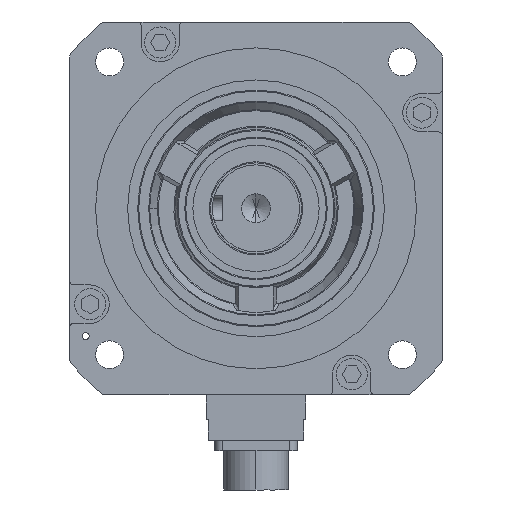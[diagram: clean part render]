
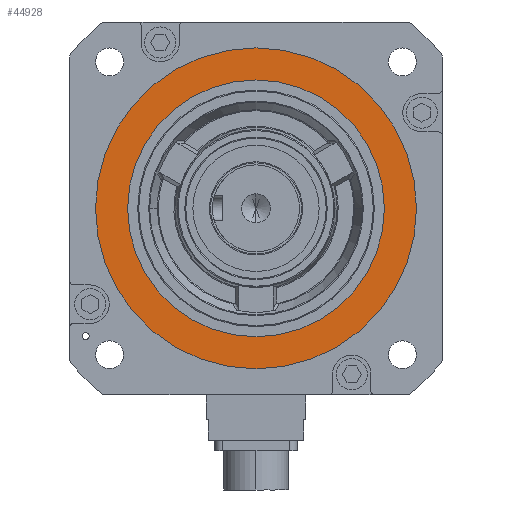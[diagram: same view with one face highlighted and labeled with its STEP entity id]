
A CAD part, left-side view. The second image highlights one B-rep face of the part: STEP entity #44928.
In plain terms, the highlighted planar face has unit normal (-1, 0, 0) as drawn and (0, 0, -1) by its records, which use the part's own axes.
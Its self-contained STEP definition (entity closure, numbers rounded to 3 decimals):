
#4986 = VERTEX_POINT ( 'NONE', #51182 ) ;
#5080 = AXIS2_PLACEMENT_3D ( 'NONE', #28611, #5470, #51953 ) ;
#5252 = AXIS2_PLACEMENT_3D ( 'NONE', #17971, #41535, #60465 ) ;
#5470 = DIRECTION ( 'NONE',  ( 0., 0., -1. ) ) ;
#5799 = VERTEX_POINT ( 'NONE', #10965 ) ;
#7637 = ORIENTED_EDGE ( 'NONE', *, *, #54354, .F. ) ;
#7773 = DIRECTION ( 'NONE',  ( 0., 0., 1. ) ) ;
#8296 = DIRECTION ( 'NONE',  ( 0., 0., 1. ) ) ;
#10590 = CARTESIAN_POINT ( 'NONE',  ( -77.5, 0., 3.8 ) ) ;
#10965 = CARTESIAN_POINT ( 'NONE',  ( -62., 0., 3.8 ) ) ;
#11901 = CARTESIAN_POINT ( 'NONE',  ( 0., 0., 3.8 ) ) ;
#11974 = CIRCLE ( 'NONE', #5252, 77.5 ) ;
#12442 = AXIS2_PLACEMENT_3D ( 'NONE', #11901, #7773, #53931 ) ;
#13246 = CIRCLE ( 'NONE', #35335, 77.5 ) ;
#17971 = CARTESIAN_POINT ( 'NONE',  ( 0., 0., 3.8 ) ) ;
#18856 = CIRCLE ( 'NONE', #12442, 62. ) ;
#19576 = DIRECTION ( 'NONE',  ( 1., 0., 0. ) ) ;
#21923 = EDGE_CURVE ( 'NONE', #54036, #4986, #11974, .T. ) ;
#26617 = EDGE_CURVE ( 'NONE', #60344, #5799, #31141, .T. ) ;
#26988 = ORIENTED_EDGE ( 'NONE', *, *, #21923, .F. ) ;
#28611 = CARTESIAN_POINT ( 'NONE',  ( 0., 62., 3.8 ) ) ;
#31141 = CIRCLE ( 'NONE', #55811, 62. ) ;
#31331 = ORIENTED_EDGE ( 'NONE', *, *, #34526, .T. ) ;
#34526 = EDGE_CURVE ( 'NONE', #5799, #60344, #18856, .T. ) ;
#35335 = AXIS2_PLACEMENT_3D ( 'NONE', #55254, #8296, #36603 ) ;
#36603 = DIRECTION ( 'NONE',  ( 1., 0., 0. ) ) ;
#39064 = DIRECTION ( 'NONE',  ( 0., 0., 1. ) ) ;
#41535 = DIRECTION ( 'NONE',  ( 0., 0., 1. ) ) ;
#43720 = CARTESIAN_POINT ( 'NONE',  ( 0., 0., 3.8 ) ) ;
#44657 = EDGE_LOOP ( 'NONE', ( #7637, #26988 ) ) ;
#44928 = ADVANCED_FACE ( 'NONE', ( #57552, #45002 ), #47464, .T. ) ;
#45002 = FACE_OUTER_BOUND ( 'NONE', #44657, .T. ) ;
#47464 = PLANE ( 'NONE',  #5080 ) ;
#48973 = CARTESIAN_POINT ( 'NONE',  ( 62., 0., 3.8 ) ) ;
#51182 = CARTESIAN_POINT ( 'NONE',  ( 77.5, 0., 3.8 ) ) ;
#51559 = EDGE_LOOP ( 'NONE', ( #52965, #31331 ) ) ;
#51953 = DIRECTION ( 'NONE',  ( -1., 0., 0. ) ) ;
#52965 = ORIENTED_EDGE ( 'NONE', *, *, #26617, .T. ) ;
#53931 = DIRECTION ( 'NONE',  ( 1., 0., 0. ) ) ;
#54036 = VERTEX_POINT ( 'NONE', #10590 ) ;
#54354 = EDGE_CURVE ( 'NONE', #4986, #54036, #13246, .T. ) ;
#55254 = CARTESIAN_POINT ( 'NONE',  ( 0., 0., 3.8 ) ) ;
#55811 = AXIS2_PLACEMENT_3D ( 'NONE', #43720, #39064, #19576 ) ;
#57552 = FACE_BOUND ( 'NONE', #51559, .T. ) ;
#60344 = VERTEX_POINT ( 'NONE', #48973 ) ;
#60465 = DIRECTION ( 'NONE',  ( 1., 0., 0. ) ) ;
